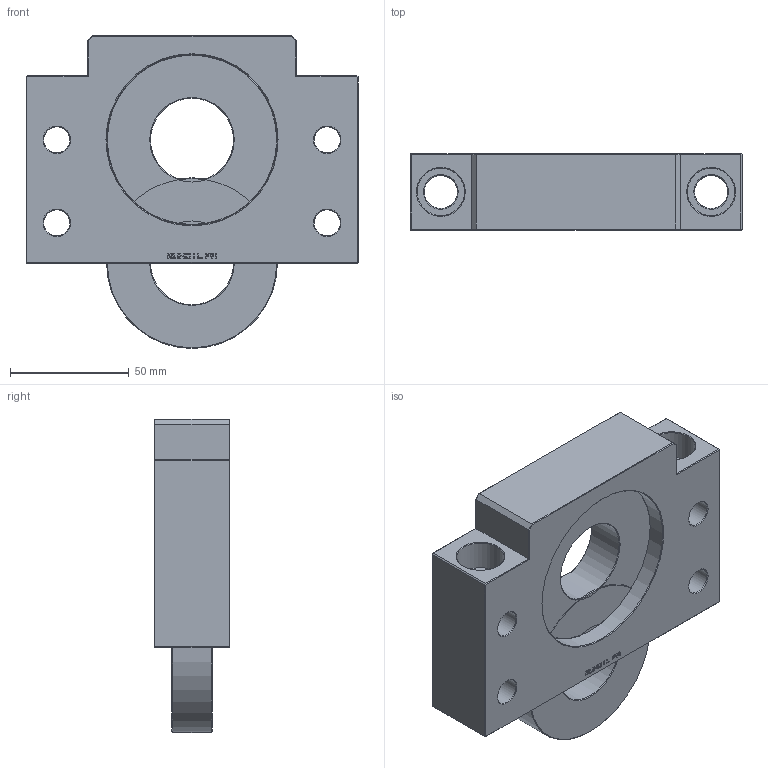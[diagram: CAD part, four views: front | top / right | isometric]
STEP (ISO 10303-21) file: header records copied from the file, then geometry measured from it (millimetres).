
FILE_DESCRIPTION( ( 'Unknown' ), '1' );
FILE_NAME( 'D:/3D/憮んお嶸棉/20060119/SBF TYPE/SBF35/SBF35(ASSM).stp', 'Unknown', ( 'Unknown' ), ( 'Unknown' ), 'XStep 1.0', 'Unknown', ' ' );
FILE_SCHEMA( ( 'CONFIG_CONTROL_DESIGN' ) );
Length unit declared in the file: millimetre
Products named in the file (3): Assem1; SBF35(housing); bearing(6207ZZ)
Bounding box: 140 x 32 x 132 mm (x, y, z)
Volume: 576620.1 mm3; surface area: 117627.5 mm2
Topology: 4 solids, 4 shells, 798 faces, 2166 edges, 1416 vertices
Faces by surface type: plane 424, cylinder 334, cone 40
Full cylindrical faces by diameter (mm): 11 x16, 14 x4, 20 x4, 35 x2, 72 x4
Entity records: 13180 total; most frequent: CARTESIAN_POINT 2826, DIRECTION 2180, ORIENTED_EDGE 2076, EDGE_CURVE 1038, AXIS2_PLACEMENT_3D 748, VERTEX_POINT 698, LINE 684, VECTOR 684
